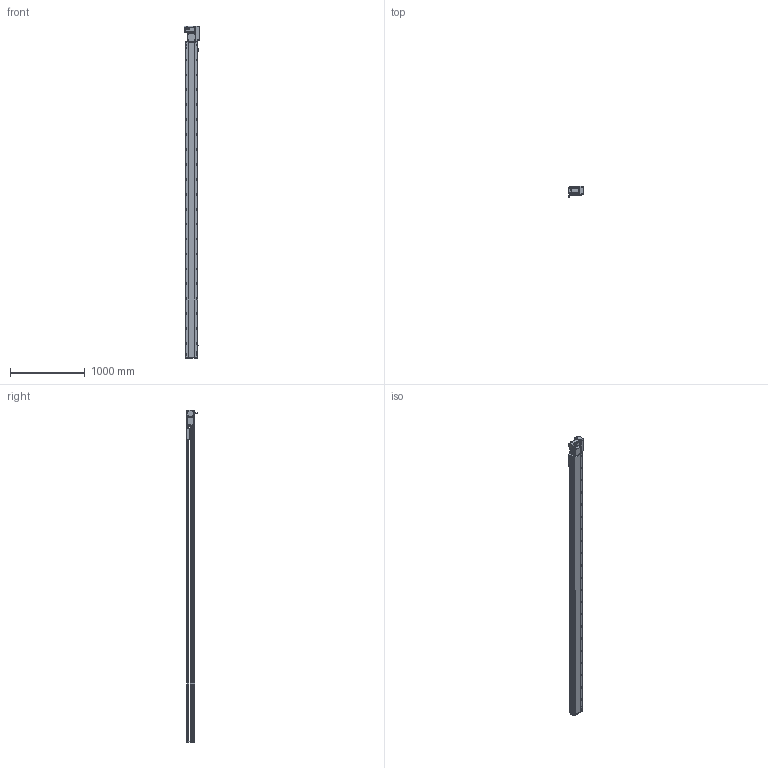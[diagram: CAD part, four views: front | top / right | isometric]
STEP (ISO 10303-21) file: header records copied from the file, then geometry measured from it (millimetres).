
FILE_DESCRIPTION (( 'STEP AP214' ), '1' );
FILE_NAME ('RTB17S-XX-3950-R-M75-C4.STEP', '2025-12-12T01:56:57', ( '' ), ( '' ), 'SwSTEP 2.0', 'SolidWorks 2018', '' );
FILE_SCHEMA (( 'AUTOMOTIVE_DESIGN' ));
Length unit declared in the file: millimetre
Products named in the file (15): 750W萇儂^RTB17S-XX-XX-R-M75-C4; RTB17S-L-001-耜醱啣^RTB17S-XX-XX-R-M75-C4; RTB17S-賑釱^RTB17S-XX-XX-R-M75-C4; RTB22S-GY-017P^RTB17S-R-々湍釱蚾饜-750W_RTB17S-XX-XX-R-M75-C4; EE672^RTB17S-XX-XX-R-M75-C4; RTB17S-XX-3950-R-M75-C4; RTB17-R-011菁釱^RTB17S-XX-XX-R-M75-C4; RTB17S-L-007奻裔^RTB17S-XX-XX-R-M75-C4; RTB22S-GY-005P^RTB17S-R-々湍釱蚾饜-750W_RTB17S-XX-XX-R-M75-C4; RTB22S-GY-018P^RTB17S-R-々湍釱蚾饜-750W_RTB17S-XX-XX-R-M75-C4; RTH13-BL-012覜茼え俋离^RTB17S-賑釱_RTB17S-XX-XX-R-M75-C4; RTB17S-L-014-T20-P75--々湍釱^RTB17S-R-々湍釱蚾饜-750W_RTB17S-XX-XX-R-M75-C4; RTB17S-L-004-賑釱^RTB17S-賑釱_RTB17S-XX-XX-R-M75-C4; RTB17S-R-々湍釱蚾饜-750W^RTB17S-XX-XX-R-M75-C4; RTB22S-GY-008-M75--萇儂啣^RTB17S-R-々湍釱蚾饜-750W_RTB17S-XX-XX-R-M75-C4
Assembly tree (17 placements, depth 3):
  RTB17S-XX-3950-R-M75-C4
    RTB17-R-011菁釱^RTB17S-XX-XX-R-M75-C4
    EE672^RTB17S-XX-XX-R-M75-C4  x3
    RTB17S-L-001-耜醱啣^RTB17S-XX-XX-R-M75-C4
    RTB17S-賑釱^RTB17S-XX-XX-R-M75-C4
      RTB17S-L-004-賑釱^RTB17S-賑釱_RTB17S-XX-XX-R-M75-C4
      RTH13-BL-012覜茼え俋离^RTB17S-賑釱_RTB17S-XX-XX-R-M75-C4
    RTB17S-L-007奻裔^RTB17S-XX-XX-R-M75-C4
    750W萇儂^RTB17S-XX-XX-R-M75-C4
    RTB17S-R-々湍釱蚾饜-750W^RTB17S-XX-XX-R-M75-C4
      RTB17S-L-014-T20-P75--々湍釱^RTB17S-R-々湍釱蚾饜-750W_RTB17S-XX-XX-R-M75-C4
      RTB22S-GY-005P^RTB17S-R-々湍釱蚾饜-750W_RTB17S-XX-XX-R-M75-C4
      RTB22S-GY-017P^RTB17S-R-々湍釱蚾饜-750W_RTB17S-XX-XX-R-M75-C4  x2
      RTB22S-GY-008-M75--萇儂啣^RTB17S-R-々湍釱蚾饜-750W_RTB17S-XX-XX-R-M75-C4
      RTB22S-GY-018P^RTB17S-R-々湍釱蚾饜-750W_RTB17S-XX-XX-R-M75-C4
Bounding box: 207.4 x 152.7 x 4449 mm (x, y, z)
Volume: 30642057.7 mm3; surface area: 5694490.2 mm2
Topology: 17 solids, 17 shells, 2329 faces, 6592 edges, 4274 vertices
Faces by surface type: plane 1000, cylinder 913, bspline 294, cone 110, sphere 8, torus 4
Entity records: 69622 total; most frequent: CARTESIAN_POINT 20856, ORIENTED_EDGE 10028, DIRECTION 9212, EDGE_CURVE 5014, AXIS2_PLACEMENT_3D 3294, VERTEX_POINT 3278, VECTOR 2624, LINE 2624
